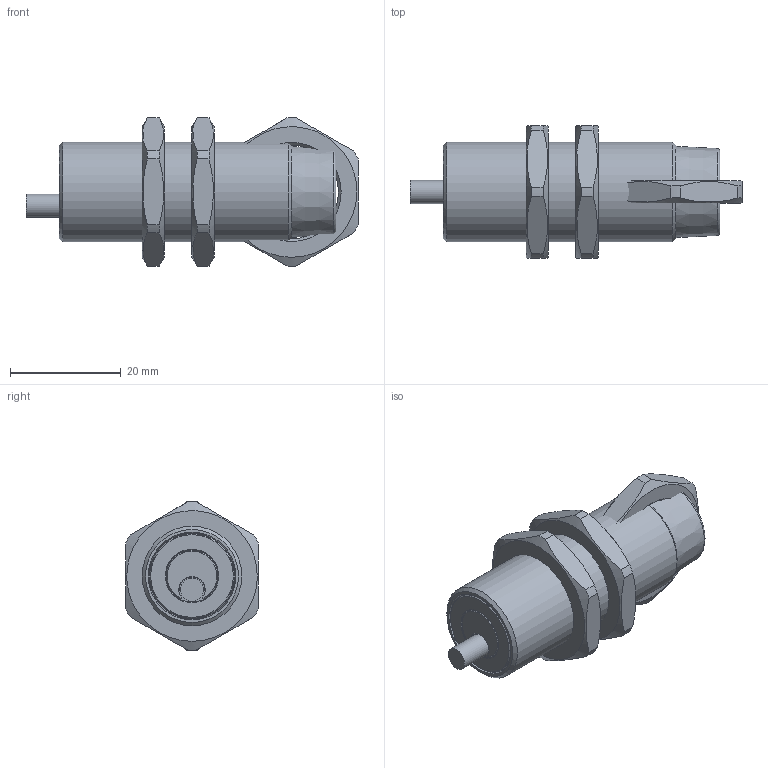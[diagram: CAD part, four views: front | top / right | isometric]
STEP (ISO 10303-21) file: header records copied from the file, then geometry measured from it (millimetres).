
FILE_DESCRIPTION( ( 'Unknown' ), '1' );
FILE_NAME( '//baumerholding.org/frauenfeld/bereich/BECH/Services/me_CAD/Solid Edge/Models/Dokumentationen/Induktiv/IxRx 18/Vereinfachte Modelle/Neutralformate/IFRM 18xx3T1_L.stp', 'Unknown', ( 'Unknown' ), ( 'Unknown' ), 'PSStep 10.0', 'Unknown', ' ' );
FILE_SCHEMA( ( 'AUTOMOTIVE_DESIGN { 1 0 10303 214 1 1 1 1 }' ) );
Length unit declared in the file: millimetre
Products named in the file (3): Assem1; IFRM 18xx3T1_L_oA; 101474
Bounding box: 60 x 24 x 26.8 mm (x, y, z)
Volume: 27840.1 mm3; surface area: 9693.6 mm2
Topology: 5 solids, 5 shells, 107 faces, 243 edges, 158 vertices
Faces by surface type: plane 48, cylinder 29, cone 28, torus 2
Full cylindrical faces by diameter (mm): 4.2 x2, 9.45 x2, 15.34 x2, 16.917 x3, 18 x2
Entity records: 1480 total; most frequent: CARTESIAN_POINT 334, DIRECTION 194, ORIENTED_EDGE 154, AXIS2_PLACEMENT_3D 87, EDGE_CURVE 77, EDGE_LOOP 68, VERTEX_POINT 59, FACE_OUTER_BOUND 50
